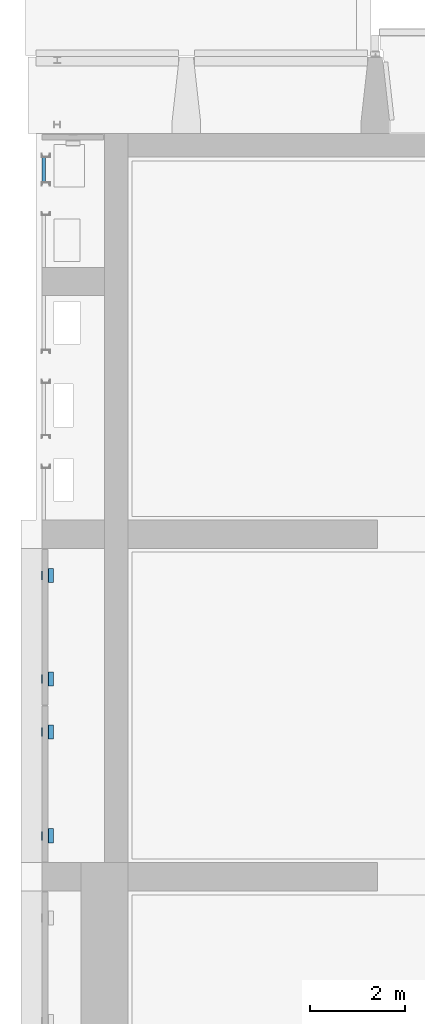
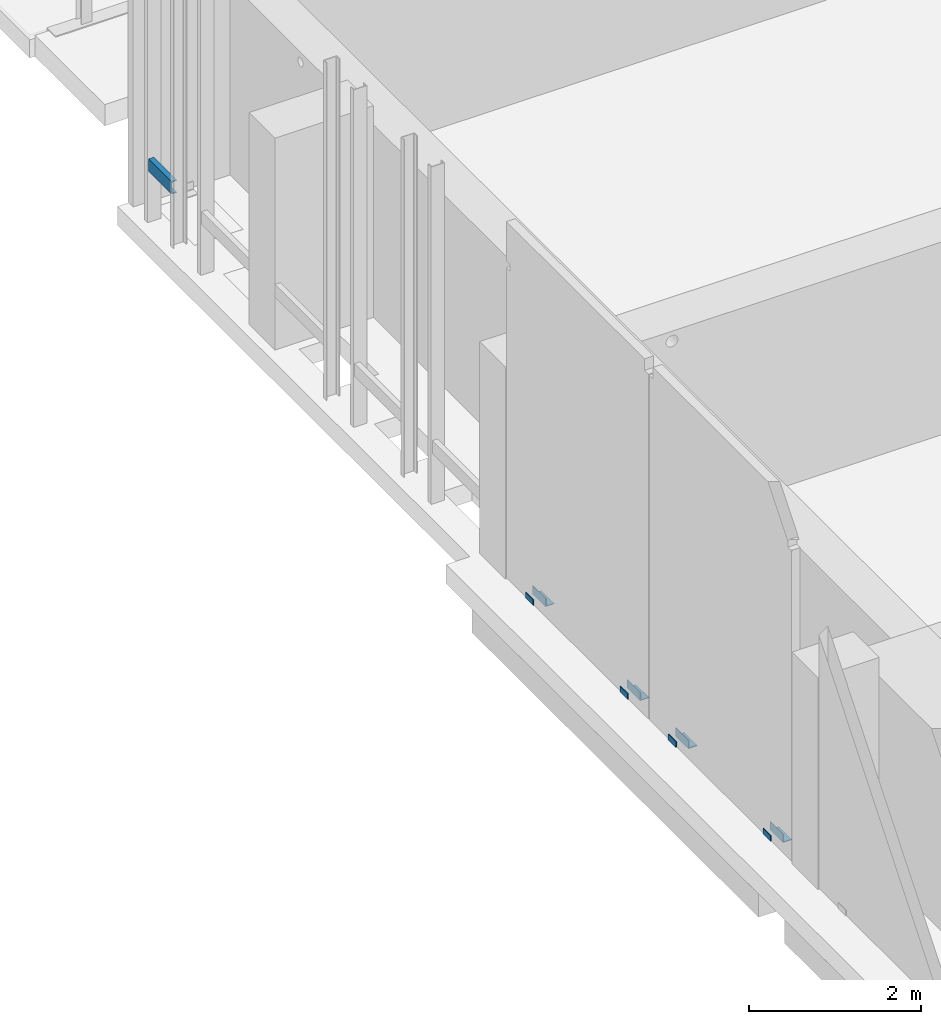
# One storey, part 17 of 31: 9 beams.
"""IFC2X3 building model written with IfcOpenShell, lengths in millimetres."""

from ifc_helpers import new_model, entity, si_unit, converted_unit, derived_unit, direction, frame, frame_2d, origin, origin_2d_with_axis, place, context, subcontext, project, spatial, polyline, circle_curve, parameter, trimmed, segment, composite_curve, rectangle, outline, extrude, source, transform, mapped, material, type_object, type_shapes, element, save


model = new_model("IFC2X3")

# Units and contexts
model_context = context("Model", 3, precision=0.01, world=origin(), true_north=direction((6.12303176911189e-17, 1.0)))
body_context = subcontext(model_context, "Body", "Model", "MODEL_VIEW")
ifc_project = project(units=[si_unit("LENGTHUNIT", "METRE", prefix="MILLI"), si_unit("AREAUNIT", "SQUARE_METRE"), si_unit("VOLUMEUNIT", "CUBIC_METRE"), converted_unit("PLANEANGLEUNIT", "DEGREE", entity("IfcRatioMeasure", 0.0174532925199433), si_unit("PLANEANGLEUNIT", "RADIAN"), dimensions=[0, 0, 0, 0, 0, 0, 0]), si_unit("MASSUNIT", "GRAM", prefix="KILO"), derived_unit("MASSDENSITYUNIT", [(si_unit("MASSUNIT", "GRAM", prefix="KILO"), 1), (si_unit("LENGTHUNIT", "METRE"), -3)]), si_unit("TIMEUNIT", "SECOND"), si_unit("FREQUENCYUNIT", "HERTZ"), si_unit("THERMODYNAMICTEMPERATUREUNIT", "DEGREE_CELSIUS"), derived_unit("THERMALTRANSMITTANCEUNIT", [(si_unit("MASSUNIT", "GRAM", prefix="KILO"), 1), (si_unit("THERMODYNAMICTEMPERATUREUNIT", "KELVIN"), -1), (si_unit("TIMEUNIT", "SECOND"), -3)]), derived_unit("VOLUMETRICFLOWRATEUNIT", [(si_unit("LENGTHUNIT", "METRE"), 3), (si_unit("TIMEUNIT", "SECOND"), -1)]), si_unit("ELECTRICCURRENTUNIT", "AMPERE"), si_unit("ELECTRICVOLTAGEUNIT", "VOLT"), si_unit("POWERUNIT", "WATT"), si_unit("FORCEUNIT", "NEWTON", prefix="KILO"), si_unit("ILLUMINANCEUNIT", "LUX"), si_unit("LUMINOUSFLUXUNIT", "LUMEN"), si_unit("LUMINOUSINTENSITYUNIT", "CANDELA"), derived_unit("USERDEFINED", [(si_unit("MASSUNIT", "GRAM", prefix="KILO"), -1), (si_unit("LENGTHUNIT", "METRE"), -2), (si_unit("TIMEUNIT", "SECOND"), 3), (si_unit("LUMINOUSFLUXUNIT", "LUMEN"), 1)]), derived_unit("LINEARVELOCITYUNIT", [(si_unit("LENGTHUNIT", "METRE"), 1), (si_unit("TIMEUNIT", "SECOND"), -1)]), si_unit("PRESSUREUNIT", "PASCAL"), derived_unit("USERDEFINED", [(si_unit("LENGTHUNIT", "METRE"), -2), (si_unit("MASSUNIT", "GRAM", prefix="KILO"), 1), (si_unit("TIMEUNIT", "SECOND"), -2)])], contexts=[model_context])

# Site, building, storey
site_placement = place(None, origin())
site = spatial("IfcSite", under=ifc_project, at=site_placement, Name="Default", CompositionType="ELEMENT")
building_placement = place(site_placement, origin())
building = spatial("IfcBuilding", under=site, at=building_placement, Name="niet gebruiken", CompositionType="ELEMENT")
storey_placement = place(building_placement, frame((0.0, 0.0, 12000.0)))
storey = spatial("IfcBuildingStorey", under=building, at=storey_placement, Name="03 derde verdieping", CompositionType="ELEMENT", Elevation=12000.0)

# Beams
ifc_material = material(Name="NLRS_h2_staal")
beam_type_1 = type_object("IfcBeamType", Name="NLRS_28.11_SF_WPB_stalen ligger hoekprofiel gelijkzijdig_gen:ligger gelijzijdig hoekprofiel LEQU_120x120x12_!", PredefinedType="BEAM")
beam_1_placement = place(storey_placement, frame((124840.0, 18520.0, 30.0), z_axis=(0.0, 0.0, 1.0), x_axis=(0.0, -1.0, 0.0)))
element("IfcBeam", 1, at=beam_1_placement, inside=storey, type_object=beam_type_1, material=ifc_material, Name="NLRS_28.11_SF_WPB_stalen ligger hoekprofiel gelijkzijdig_gen:ligger gelijzijdig hoekprofiel LEQU_120x120x12_!", ObjectType="NLRS_28.11_SF_WPB_stalen ligger hoekprofiel gelijkzijdig_gen:ligger gelijzijdig hoekprofiel LEQU_120x120x12_!", context=body_context, shape_type="SweptSolid", body=[
    extrude(outline(composite_curve([segment(polyline([(-75.5555555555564, -44.4444444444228), (44.4444444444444, -44.4444444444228)]), True, "CONTINUOUS"), segment(polyline([(44.4444444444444, -44.4444444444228), (44.4444444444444, 75.5555555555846)]), True, "CONTINUOUS"), segment(polyline([(44.4444444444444, 75.5555555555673), (40.4444444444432, 75.5555555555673)]), True, "CONTINUOUS"), segment(trimmed(circle_curve(frame_2d((40.4444444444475, 69.5555555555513), x_axis=(0.0, 1.0)), 6.00000000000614), [parameter(0.0)], [parameter(89.9999999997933)], True, "PARAMETER"), True, "CONTINUOUS"), segment(polyline([(34.4444444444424, 69.5555555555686), (34.4444444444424, -22.4444444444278)]), True, "CONTINUOUS"), segment(trimmed(circle_curve(frame_2d((22.4444444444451, -22.4444444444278), x_axis=(1.0, 0.0)), 11.9999999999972), [parameter(269.99999999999)], [parameter(0.0)], True, "PARAMETER"), False, "CONTINUOUS"), segment(polyline([(22.444444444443, -34.4444444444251), (-69.5555555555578, -34.4444444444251)]), True, "CONTINUOUS"), segment(trimmed(circle_curve(frame_2d((-69.5555555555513, -40.444444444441), x_axis=(0.0, 1.0)), 6.00000000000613), [parameter(0.0)], [parameter(89.9999999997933)], True, "PARAMETER"), True, "CONTINUOUS"), segment(polyline([(-75.5555555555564, -40.4444444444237), (-75.5555555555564, -44.4444444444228)]), True, "CONTINUOUS")], self_intersect=False)), frame((0.0, 24.4444444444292, -75.5555555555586), z_axis=(1.0, 0.0, 0.0), x_axis=(0.0, 0.0, -1.0)), (0.0, 0.0, 1.0), 300.000000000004),
])
beam_2_placement = place(storey_placement, frame((124840.0, 20715.0, 30.0), z_axis=(0.0, 0.0, 1.0), x_axis=(0.0, -1.0, 0.0)))
element("IfcBeam", 2, at=beam_2_placement, inside=storey, type_object=beam_type_1, material=ifc_material, Name="NLRS_28.11_SF_WPB_stalen ligger hoekprofiel gelijkzijdig_gen:ligger gelijzijdig hoekprofiel LEQU_120x120x12_!", ObjectType="NLRS_28.11_SF_WPB_stalen ligger hoekprofiel gelijkzijdig_gen:ligger gelijzijdig hoekprofiel LEQU_120x120x12_!", context=body_context, shape_type="SweptSolid", body=[
    extrude(outline(composite_curve([segment(polyline([(-75.5555555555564, -44.4444444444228), (44.4444444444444, -44.4444444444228)]), True, "CONTINUOUS"), segment(polyline([(44.4444444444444, -44.4444444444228), (44.4444444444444, 75.5555555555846)]), True, "CONTINUOUS"), segment(polyline([(44.4444444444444, 75.5555555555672), (40.4444444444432, 75.5555555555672)]), True, "CONTINUOUS"), segment(trimmed(circle_curve(frame_2d((40.4444444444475, 69.5555555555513), x_axis=(0.0, 1.0)), 6.00000000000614), [parameter(0.0)], [parameter(89.9999999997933)], True, "PARAMETER"), True, "CONTINUOUS"), segment(polyline([(34.4444444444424, 69.5555555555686), (34.4444444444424, -22.4444444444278)]), True, "CONTINUOUS"), segment(trimmed(circle_curve(frame_2d((22.4444444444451, -22.4444444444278), x_axis=(1.0, 0.0)), 11.9999999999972), [parameter(269.99999999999)], [parameter(0.0)], True, "PARAMETER"), False, "CONTINUOUS"), segment(polyline([(22.444444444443, -34.4444444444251), (-69.5555555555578, -34.4444444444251)]), True, "CONTINUOUS"), segment(trimmed(circle_curve(frame_2d((-69.5555555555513, -40.444444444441), x_axis=(0.0, 1.0)), 6.00000000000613), [parameter(0.0)], [parameter(89.9999999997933)], True, "PARAMETER"), True, "CONTINUOUS"), segment(polyline([(-75.5555555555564, -40.4444444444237), (-75.5555555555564, -44.4444444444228)]), True, "CONTINUOUS")], self_intersect=False)), frame((0.0, 24.4444444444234, -75.5555555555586), z_axis=(1.0, 0.0, 0.0), x_axis=(0.0, 0.0, -1.0)), (0.0, 0.0, 1.0), 300.000000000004),
])
beam_3_placement = place(storey_placement, frame((124840.0, 21835.0, 30.0), z_axis=(0.0, 0.0, 1.0), x_axis=(0.0, -1.0, 0.0)))
element("IfcBeam", 3, at=beam_3_placement, inside=storey, type_object=beam_type_1, material=ifc_material, Name="NLRS_28.11_SF_WPB_stalen ligger hoekprofiel gelijkzijdig_gen:ligger gelijzijdig hoekprofiel LEQU_120x120x12_!", ObjectType="NLRS_28.11_SF_WPB_stalen ligger hoekprofiel gelijkzijdig_gen:ligger gelijzijdig hoekprofiel LEQU_120x120x12_!", context=body_context, shape_type="SweptSolid", body=[
    extrude(outline(composite_curve([segment(polyline([(-75.5555555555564, -44.4444444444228), (44.4444444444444, -44.4444444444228)]), True, "CONTINUOUS"), segment(polyline([(44.4444444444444, -44.4444444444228), (44.4444444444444, 75.5555555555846)]), True, "CONTINUOUS"), segment(polyline([(44.4444444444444, 75.5555555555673), (40.4444444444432, 75.5555555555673)]), True, "CONTINUOUS"), segment(trimmed(circle_curve(frame_2d((40.4444444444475, 69.5555555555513), x_axis=(0.0, 1.0)), 6.00000000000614), [parameter(0.0)], [parameter(89.9999999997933)], True, "PARAMETER"), True, "CONTINUOUS"), segment(polyline([(34.4444444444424, 69.5555555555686), (34.4444444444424, -22.4444444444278)]), True, "CONTINUOUS"), segment(trimmed(circle_curve(frame_2d((22.4444444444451, -22.4444444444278), x_axis=(1.0, 0.0)), 11.9999999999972), [parameter(269.99999999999)], [parameter(0.0)], True, "PARAMETER"), False, "CONTINUOUS"), segment(polyline([(22.444444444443, -34.4444444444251), (-69.5555555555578, -34.4444444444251)]), True, "CONTINUOUS"), segment(trimmed(circle_curve(frame_2d((-69.5555555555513, -40.444444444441), x_axis=(0.0, 1.0)), 6.00000000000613), [parameter(0.0)], [parameter(89.9999999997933)], True, "PARAMETER"), True, "CONTINUOUS"), segment(polyline([(-75.5555555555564, -40.4444444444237), (-75.5555555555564, -44.4444444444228)]), True, "CONTINUOUS")], self_intersect=False)), frame((0.0, 24.4444444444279, -75.5555555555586), z_axis=(1.0, 0.0, 0.0), x_axis=(0.0, 0.0, -1.0)), (0.0, 0.0, 1.0), 300.000000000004),
])
beam_4_placement = place(storey_placement, frame((124840.0, 24030.0, 30.0), z_axis=(0.0, 0.0, 1.0), x_axis=(0.0, -1.0, 0.0)))
element("IfcBeam", 4, at=beam_4_placement, inside=storey, type_object=beam_type_1, material=ifc_material, Name="NLRS_28.11_SF_WPB_stalen ligger hoekprofiel gelijkzijdig_gen:ligger gelijzijdig hoekprofiel LEQU_120x120x12_!", ObjectType="NLRS_28.11_SF_WPB_stalen ligger hoekprofiel gelijkzijdig_gen:ligger gelijzijdig hoekprofiel LEQU_120x120x12_!", context=body_context, shape_type="SweptSolid", body=[
    extrude(outline(composite_curve([segment(polyline([(-75.5555555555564, -44.4444444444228), (44.4444444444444, -44.4444444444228)]), True, "CONTINUOUS"), segment(polyline([(44.4444444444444, -44.4444444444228), (44.4444444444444, 75.5555555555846)]), True, "CONTINUOUS"), segment(polyline([(44.4444444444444, 75.5555555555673), (40.4444444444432, 75.5555555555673)]), True, "CONTINUOUS"), segment(trimmed(circle_curve(frame_2d((40.4444444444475, 69.5555555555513), x_axis=(0.0, 1.0)), 6.00000000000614), [parameter(0.0)], [parameter(89.9999999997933)], True, "PARAMETER"), True, "CONTINUOUS"), segment(polyline([(34.4444444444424, 69.5555555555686), (34.4444444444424, -22.4444444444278)]), True, "CONTINUOUS"), segment(trimmed(circle_curve(frame_2d((22.4444444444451, -22.4444444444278), x_axis=(1.0, 0.0)), 11.9999999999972), [parameter(269.99999999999)], [parameter(0.0)], True, "PARAMETER"), False, "CONTINUOUS"), segment(polyline([(22.444444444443, -34.4444444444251), (-69.5555555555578, -34.4444444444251)]), True, "CONTINUOUS"), segment(trimmed(circle_curve(frame_2d((-69.5555555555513, -40.444444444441), x_axis=(0.0, 1.0)), 6.00000000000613), [parameter(0.0)], [parameter(89.9999999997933)], True, "PARAMETER"), True, "CONTINUOUS"), segment(polyline([(-75.5555555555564, -40.4444444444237), (-75.5555555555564, -44.4444444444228)]), True, "CONTINUOUS")], self_intersect=False)), frame((0.0, 24.4444444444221, -75.5555555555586), z_axis=(1.0, 0.0, 0.0), x_axis=(0.0, 0.0, -1.0)), (0.0, 0.0, 1.0), 300.000000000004),
])
beam_type_2 = type_object("IfcBeamType", Name="ligger stripstaal RECT_80x12 gedraaid_!", PredefinedType="BEAM", material=ifc_material)
shared_shape = source(origin(), body_context, "Body", "SweptSolid", [
    extrude(rectangle(XDim=179.99999999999, YDim=12.0, at=origin_2d_with_axis()), frame((0.0, 0.0, -40.0), z_axis=(0.0, 0.0, 1.0), x_axis=(-1.0, 0.0, 0.0)), (0.0, 0.0, 1.0), 80.0),
    extrude(rectangle(XDim=179.99999999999, YDim=12.0, at=origin_2d_with_axis()), frame((0.0, 0.0, -40.0), z_axis=(0.0, 0.0, 1.0), x_axis=(-1.0, 0.0, 0.0)), (0.0, 0.0, 1.0), 80.0),
])
type_shapes(beam_type_2, [shared_shape])
for number, where, z_axis, x_axis in (
    (5, (124694.0, 18370.0, -20.0), (0.0, 0.0, 1.0), (0.0, 1.0, 0.0)),
    (6, (124694.0, 20565.0, -20.0), (0.0, 0.0, 1.0), (0.0, 1.0, 0.0)),
    (7, (124694.0, 21685.0, -20.0), (0.0, 0.0, 1.0), (0.0, 1.0, 0.0)),
    (8, (124694.0, 23880.0, -20.0), (0.0, 0.0, 1.0), (0.0, 1.0, 0.0)),
):
    element("IfcBeam", number, at=place(storey_placement, frame(where, z_axis=z_axis, x_axis=x_axis)), inside=storey, type_object=beam_type_2, material=ifc_material, Name="NLRS_28.11_SF_WPB_stalen ligger stripstaal_gen:ligger stripstaal RECT_80x12 gedraaid_!", ObjectType="ligger stripstaal RECT_80x12 gedraaid_!", context=body_context, shape_type="MappedRepresentation", body=[
        mapped(shared_shape, transform((0.0, 0.0, 0.0), scale=1.0)),
    ])
beam_type_3 = type_object("IfcBeamType", Name="NLRS_28.11_SF_WPB_stalen ligger UNP_gen:ligger UNP 180", PredefinedType="BEAM")
beam_5_placement = place(storey_placement, frame((124700.0, 32731.0, 840.0), z_axis=(0.0, 0.0, 1.0), x_axis=(0.0, -1.0, 0.0)))
element("IfcBeam", 9, at=beam_5_placement, inside=storey, type_object=beam_type_3, material=ifc_material, Name="NLRS_28.11_SF_WPB_stalen ligger UNP_gen:ligger UNP 180", ObjectType="NLRS_28.11_SF_WPB_stalen ligger UNP_gen:ligger UNP 180", context=body_context, shape_type="SweptSolid", body=[
    extrude(outline(composite_curve([segment(polyline([(-90.0623972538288, -38.5833333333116), (89.9376027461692, -38.5833333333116)]), True, "CONTINUOUS"), segment(polyline([(89.9376027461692, -38.5833333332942), (89.9376027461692, 31.4166666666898)]), True, "CONTINUOUS"), segment(polyline([(89.9376027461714, 31.4166666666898), (84.8052017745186, 31.4166666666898)]), True, "CONTINUOUS"), segment(trimmed(circle_curve(frame_2d((84.8052017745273, 25.9166666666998), x_axis=(0.0, 1.0)), 5.50000000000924), [parameter(0.0)], [parameter(89.9999999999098)], True, "PARAMETER"), True, "CONTINUOUS"), segment(polyline([(79.3052017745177, 25.9166666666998), (76.6504127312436, -19.5833333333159)]), True, "CONTINUOUS"), segment(trimmed(circle_curve(frame_2d((65.6504127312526, -19.5833333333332), x_axis=(1.0, 0.0)), 10.9999999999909), [parameter(269.999999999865)], [parameter(0.0)], True, "PARAMETER"), False, "CONTINUOUS"), segment(polyline([(65.6504127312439, -30.5833333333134), (-65.1358606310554, -30.5833333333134)]), True, "CONTINUOUS"), segment(trimmed(circle_curve(frame_2d((-65.1358606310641, -19.5833333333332), x_axis=(0.0, -1.0)), 10.9999999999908), [parameter(269.999999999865)], [parameter(0.0)], True, "PARAMETER"), False, "CONTINUOUS"), segment(polyline([(-76.1358606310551, -19.5833333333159), (-79.6949593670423, 25.9166666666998)]), True, "CONTINUOUS"), segment(trimmed(circle_curve(frame_2d((-85.1949593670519, 25.9166666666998), x_axis=(1.0, 0.0)), 5.50000000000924), [parameter(0.0)], [parameter(89.9999999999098)], True, "PARAMETER"), True, "CONTINUOUS"), segment(polyline([(-85.1949593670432, 31.4166666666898), (-90.062397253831, 31.4166666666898)]), True, "CONTINUOUS"), segment(polyline([(-90.0623972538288, 31.4166666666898), (-90.0623972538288, -38.5833333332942)]), True, "CONTINUOUS")], self_intersect=False)), frame((0.0, 38.5833333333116, -90.0623972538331), z_axis=(1.0, 0.0, 0.0), x_axis=(0.0, 0.0, -1.0)), (0.0, 0.0, 1.0), 530.999999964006),
])

save(model, "model.ifc")
